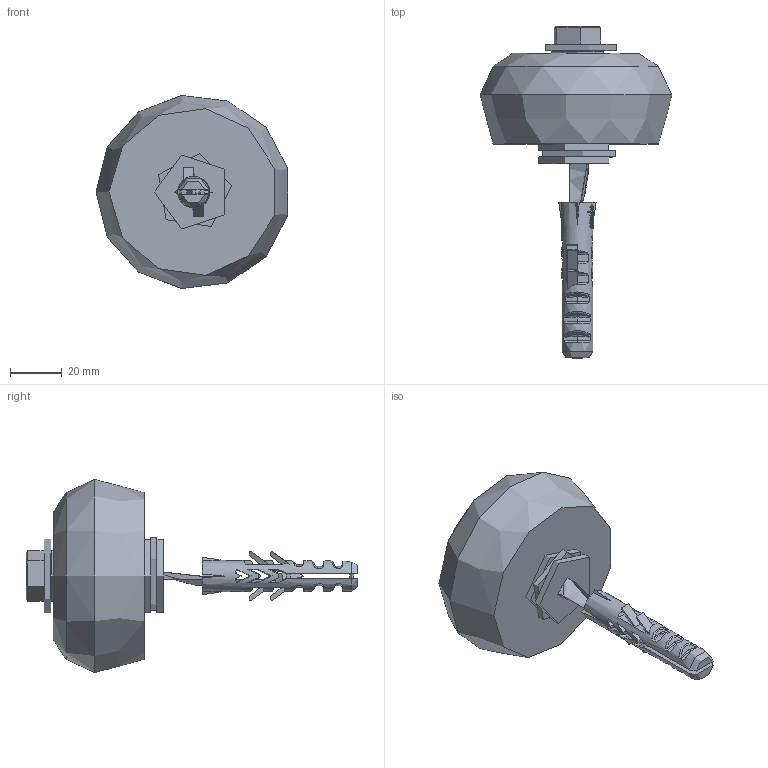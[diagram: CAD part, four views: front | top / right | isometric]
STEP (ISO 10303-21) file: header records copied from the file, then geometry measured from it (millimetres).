
FILE_DESCRIPTION(/* description */ ('Kunststoff Rolle Ø75'),/* implementation_level */ '2;1');
FILE_NAME(/* name */ 'Q:\sge-ma\Produktmanagement-STB\STB\Workspace\TraceParts\Führungsrolle Nylon mit Dübel\010337826.stp',/* time_stamp */ '2018-03-07T12:00:53+01:00',/* author */ ('avschreier'),/* organization */ (''),/* preprocessor_version */ 'ST-DEVELOPER v16.1',/* originating_system */ 'Autodesk Inventor 2016',/* authorisation */ '');
FILE_SCHEMA (('CONFIG_CONTROL_DESIGN'));
Length unit declared in the file: millimetre
Products named in the file (6): 337000142; 337000141; DIN 571 - 10 x 100; DIN_EN_ISO_7093-10,5_en; Dubel_F12; 010337826
Assembly tree (8 placements, depth 2):
  010337826
    337000142
    337000141
    DIN 571 - 10 x 100
    DIN_EN_ISO_7093-10,5_en  x4
    Dubel_F12
Bounding box: 73.91 x 128 x 74.45 mm (x, y, z)
Volume: 142693.1 mm3; surface area: 34281.7 mm2
Topology: 8 solids, 8 shells, 423 faces, 1130 edges, 733 vertices
Faces by surface type: plane 217, bspline 108, cylinder 88, cone 10
Full cylindrical faces by diameter (mm): 1.44 x1, 7 x12, 9.48 x1, 10 x1, 10.5 x4, 11 x1, 12 x1, 20 x1, 20.5 x1, 30 x4
Entity records: 19420 total; most frequent: CARTESIAN_POINT 9637, ORIENTED_EDGE 2088, DIRECTION 1637, EDGE_CURVE 1044, VERTEX_POINT 687, LINE 567, VECTOR 567, AXIS2_PLACEMENT_3D 535
